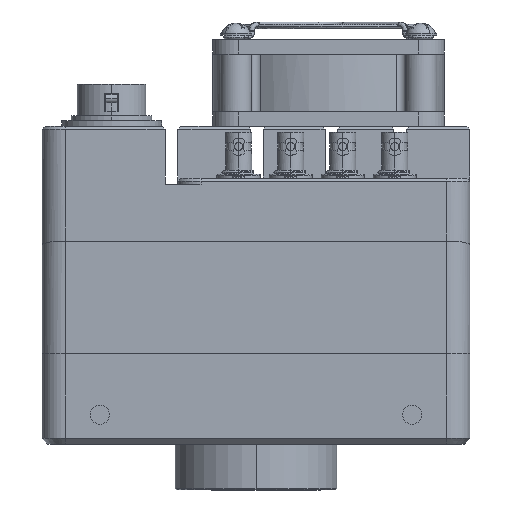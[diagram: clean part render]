
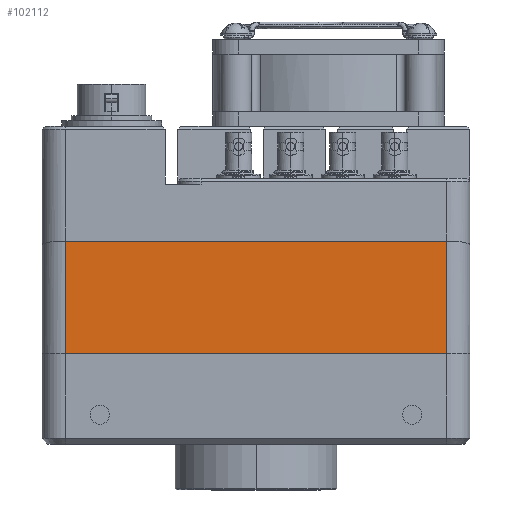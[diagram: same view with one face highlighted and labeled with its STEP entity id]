
A CAD part, left-side view. The second image highlights one B-rep face of the part: STEP entity #102112.
In plain terms, the highlighted planar face has unit normal (-1, 0, 0).
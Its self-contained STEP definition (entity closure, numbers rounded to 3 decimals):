
#7019 = LINE ( 'NONE', #151734, #69857 ) ;
#13825 = EDGE_CURVE ( 'NONE', #49686, #42242, #35590, .T. ) ;
#28133 = LINE ( 'NONE', #41036, #128258 ) ;
#28665 = ORIENTED_EDGE ( 'NONE', *, *, #13825, .T. ) ;
#35590 = LINE ( 'NONE', #88653, #133617 ) ;
#41036 = CARTESIAN_POINT ( 'NONE',  ( -38.778, 29.691, 83.83 ) ) ;
#41415 = EDGE_CURVE ( 'NONE', #42242, #51841, #132969, .T. ) ;
#42089 = DIRECTION ( 'NONE',  ( 0., 0., -1. ) ) ;
#42242 = VERTEX_POINT ( 'NONE', #130443 ) ;
#49686 = VERTEX_POINT ( 'NONE', #110238 ) ;
#51841 = VERTEX_POINT ( 'NONE', #61726 ) ;
#54351 = EDGE_LOOP ( 'NONE', ( #91026, #28665, #141942, #100824 ) ) ;
#55614 = CARTESIAN_POINT ( 'NONE',  ( -38.778, -35.309, 83.83 ) ) ;
#59048 = EDGE_CURVE ( 'NONE', #51841, #128714, #28133, .T. ) ;
#61726 = CARTESIAN_POINT ( 'NONE',  ( -38.778, 29.691, 100.29 ) ) ;
#65039 = EDGE_CURVE ( 'NONE', #49686, #128714, #7019, .T. ) ;
#66284 = VECTOR ( 'NONE', #77657, 1000. ) ;
#69857 = VECTOR ( 'NONE', #101880, 1000. ) ;
#77657 = DIRECTION ( 'NONE',  ( 0., 1., 0. ) ) ;
#79149 = PLANE ( 'NONE',  #105820 ) ;
#88653 = CARTESIAN_POINT ( 'NONE',  ( -38.778, -36.309, 83.83 ) ) ;
#91026 = ORIENTED_EDGE ( 'NONE', *, *, #65039, .F. ) ;
#92271 = DIRECTION ( 'NONE',  ( 0., 0., -1. ) ) ;
#92823 = DIRECTION ( 'NONE',  ( 1., 0., 0. ) ) ;
#100824 = ORIENTED_EDGE ( 'NONE', *, *, #59048, .T. ) ;
#101880 = DIRECTION ( 'NONE',  ( 0., 1., 0. ) ) ;
#102112 = ADVANCED_FACE ( 'NONE', ( #105860 ), #79149, .F. ) ;
#104959 = CARTESIAN_POINT ( 'NONE',  ( -38.778, 152.925, 100.29 ) ) ;
#105820 = AXIS2_PLACEMENT_3D ( 'NONE', #55614, #92823, #92271 ) ;
#105860 = FACE_OUTER_BOUND ( 'NONE', #54351, .T. ) ;
#110238 = CARTESIAN_POINT ( 'NONE',  ( -38.778, -36.309, 80.83 ) ) ;
#112046 = CARTESIAN_POINT ( 'NONE',  ( -38.778, 29.691, 80.83 ) ) ;
#128258 = VECTOR ( 'NONE', #42089, 1000. ) ;
#128714 = VERTEX_POINT ( 'NONE', #112046 ) ;
#130443 = CARTESIAN_POINT ( 'NONE',  ( -38.778, -36.309, 100.29 ) ) ;
#132969 = LINE ( 'NONE', #104959, #66284 ) ;
#133617 = VECTOR ( 'NONE', #138022, 1000. ) ;
#138022 = DIRECTION ( 'NONE',  ( 0., 0., 1. ) ) ;
#141942 = ORIENTED_EDGE ( 'NONE', *, *, #41415, .T. ) ;
#151734 = CARTESIAN_POINT ( 'NONE',  ( -38.778, -36.309, 80.83 ) ) ;
